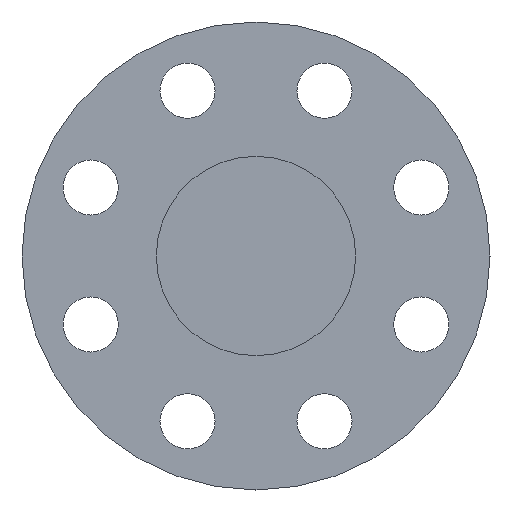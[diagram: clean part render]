
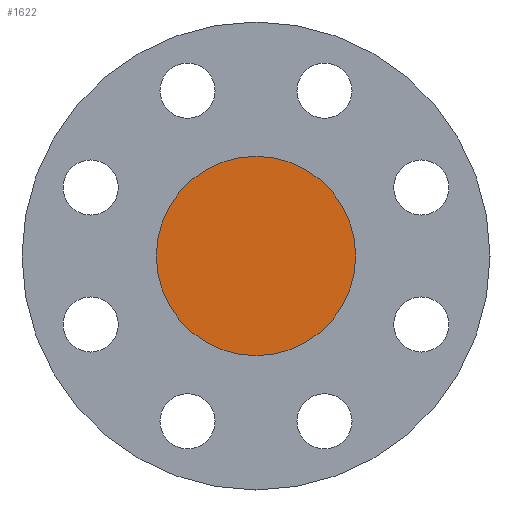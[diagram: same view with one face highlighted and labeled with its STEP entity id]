
A CAD part, left-side view. The second image highlights one B-rep face of the part: STEP entity #1622.
In plain terms, the highlighted planar face has unit normal (-1, 0, 0).
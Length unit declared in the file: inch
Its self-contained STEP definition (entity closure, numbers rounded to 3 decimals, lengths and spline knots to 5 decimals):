
#42 = DIRECTION ( 'NONE',  ( 0., 0., 1. ) ) ;
#219 = ORIENTED_EDGE ( 'NONE', *, *, #1657, .T. ) ;
#286 = AXIS2_PLACEMENT_3D ( 'NONE', #3008, #1469, #3250 ) ;
#385 = CARTESIAN_POINT ( 'NONE',  ( -7.21, 0., -1.81 ) ) ;
#429 = PLANE ( 'NONE',  #2737 ) ;
#683 = DIRECTION ( 'NONE',  ( -1., 0., 0. ) ) ;
#1151 = VERTEX_POINT ( 'NONE', #385 ) ;
#1469 = DIRECTION ( 'NONE',  ( -1., 0., 0. ) ) ;
#1564 = DIRECTION ( 'NONE',  ( -1., 0., 0. ) ) ;
#1622 = ADVANCED_FACE ( 'NONE', ( #2988 ), #429, .T. ) ;
#1657 = EDGE_CURVE ( 'NONE', #1151, #2318, #2913, .T. ) ;
#2078 = CARTESIAN_POINT ( 'NONE',  ( -7.21, 0., 1.81 ) ) ;
#2190 = EDGE_LOOP ( 'NONE', ( #2972, #219 ) ) ;
#2205 = CARTESIAN_POINT ( 'NONE',  ( -7.21, 1.81, 0. ) ) ;
#2234 = EDGE_CURVE ( 'NONE', #2318, #1151, #3254, .T. ) ;
#2318 = VERTEX_POINT ( 'NONE', #2078 ) ;
#2467 = DIRECTION ( 'NONE',  ( 0., 0., 1. ) ) ;
#2737 = AXIS2_PLACEMENT_3D ( 'NONE', #2205, #683, #2467 ) ;
#2913 = CIRCLE ( 'NONE', #286, 1.81 ) ;
#2972 = ORIENTED_EDGE ( 'NONE', *, *, #2234, .T. ) ;
#2988 = FACE_OUTER_BOUND ( 'NONE', #2190, .T. ) ;
#3008 = CARTESIAN_POINT ( 'NONE',  ( -7.21, 0., 0. ) ) ;
#3091 = CARTESIAN_POINT ( 'NONE',  ( -7.21, 0., 0. ) ) ;
#3228 = AXIS2_PLACEMENT_3D ( 'NONE', #3091, #1564, #42 ) ;
#3250 = DIRECTION ( 'NONE',  ( 0., 0., 1. ) ) ;
#3254 = CIRCLE ( 'NONE', #3228, 1.81 ) ;
